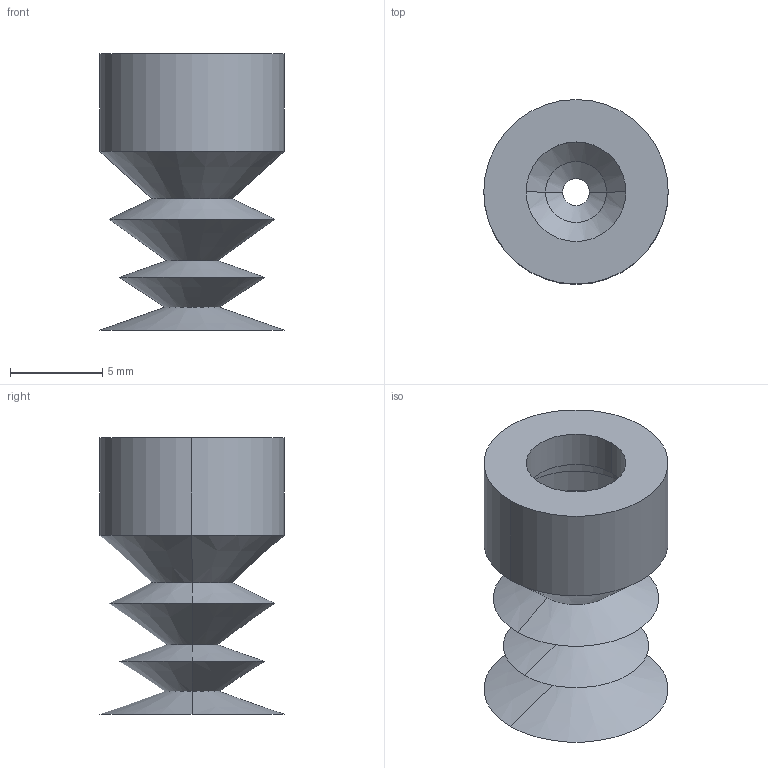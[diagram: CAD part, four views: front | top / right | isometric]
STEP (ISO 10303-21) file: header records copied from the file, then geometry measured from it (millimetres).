
FILE_DESCRIPTION (( 'STEP AP214' ), '1' );
FILE_NAME ('VSH3-S10.STEP', '2019-12-02T08:12:23', ( '微软用户' ), ( '微软中国' ), 'SwSTEP 2.0', 'SolidWorks 2016', '' );
FILE_SCHEMA (( 'AUTOMOTIVE_DESIGN' ));
Length unit declared in the file: millimetre
Products named in the file (1): VSH3-S10
Bounding box: 10 x 10 x 15 mm (x, y, z)
Volume: 275.4 mm3; surface area: 1105.1 mm2
Topology: 1 solids, 1 shells, 36 faces, 72 edges, 40 vertices
Faces by surface type: cone 24, cylinder 8, plane 4
Entity records: 962 total; most frequent: DIRECTION 186, CARTESIAN_POINT 149, ORIENTED_EDGE 144, AXIS2_PLACEMENT_3D 77, EDGE_CURVE 72, EDGE_LOOP 40, VERTEX_POINT 40, CIRCLE 40
